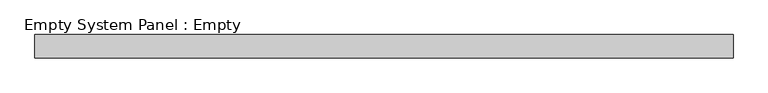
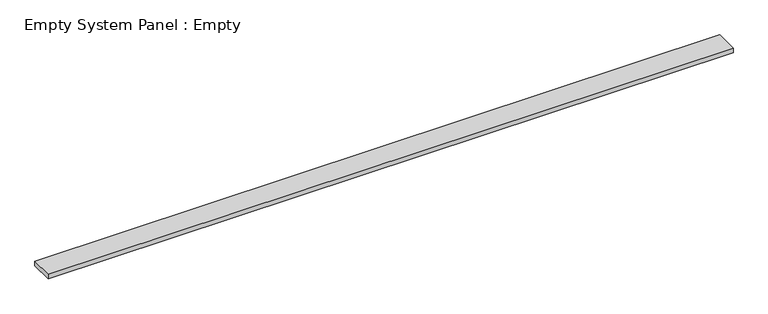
"""IFC4 building model written with IfcOpenShell, lengths in millimetres: plate geometry, Empty System Panel : Empty."""

from ifc_helpers import new_model, si_unit, origin, origin_with_axes, place, context, project, spatial, polyline, outline, extrude, source, transform, mapped, element, save


def empty_system_panel_empty_44c4d881(model_context):
    return source(origin(), model_context, "Body", "SweptSolid", [
        extrude(outline(polyline([(1500.0, -50.0), (-1500.0, -50.0), (-1500.0, 50.0), (1500.0, 50.0), (1500.0, -50.0)])), origin_with_axes(), (0.0, 0.0, 1.0), 21.5),
    ])


if __name__ == "__main__":
    model = new_model("IFC4")
    model_context = context("Model", 3, world=origin())
    ifc_project = project(units=[si_unit("LENGTHUNIT", "METRE", prefix="MILLI")], contexts=[model_context])
    site = spatial("IfcSite", under=ifc_project)
    building = spatial("IfcBuilding", under=site)
    placement = place(None, origin())
    empty_system_panel_empty_shape = empty_system_panel_empty_44c4d881(model_context)
    element("IfcPlate", 1, ObjectType="Empty System Panel : Empty", at=placement, inside=building, context=model_context, shape_type="MappedRepresentation", body=[
        mapped(empty_system_panel_empty_shape, transform((0.0, 0.0, 0.0), x_axis=(1.0, 0.0, 0.0), y_axis=(0.0, 1.0, 0.0), z_axis=(0.0, 0.0, 1.0))),
    ])
    save(model, "model.ifc")
